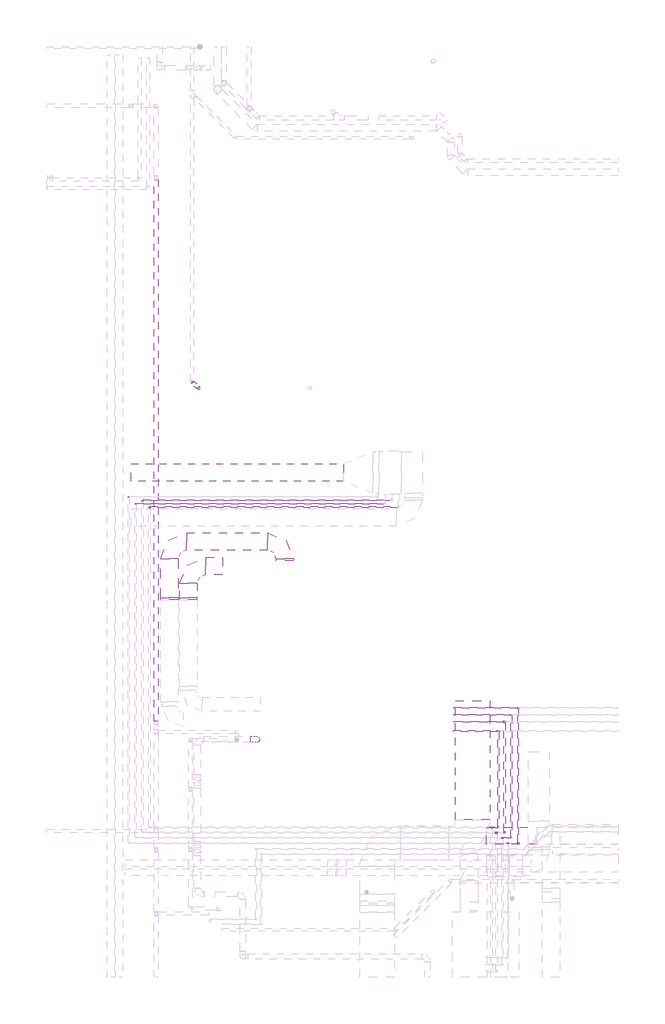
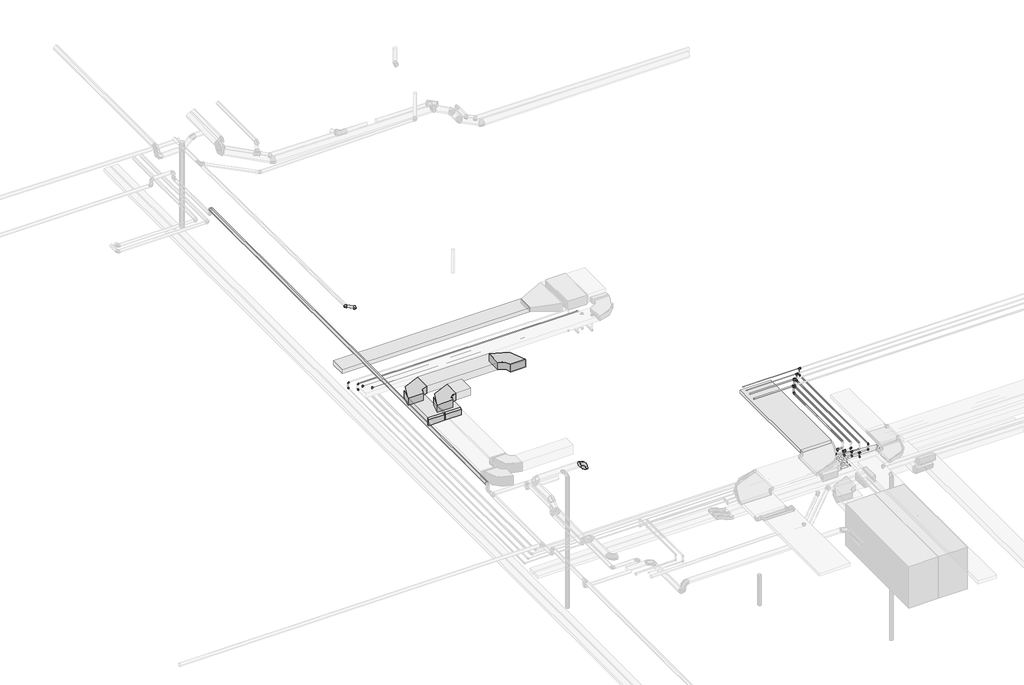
# One storey, part 5 of 10: 27 pipe fittings, 26 pipe segments, 7 duct segments, 6 duct fittings, 1 cable carrier segment.
"""IFC4 building model written with IfcOpenShell, lengths in millimetres."""

from ifc_helpers import new_model, si_unit, point, frame, frame_2d, origin, place, context, project, spatial, polyline, circle_curve, trimmed, segment, composite_curve, outline, extrude, transform, mapped, element, save
from components import duct_fitting_a79acc03, m_codo_rectangular_radio_apt_1_w_255882bf, m_codo_redondo_ext_1_d_74319309, pipe_fitting_f5d6ed74, pipe_fitting_371413ad, pipe_fitting_ce635796, pipe_fitting_12bd319b, pipe_fitting_0c9cd777, pipe_fitting_c06ac706, t_soldadura_a_enchufe_3838ae01, t_soldadura_a_enchufe_a08a0222

model = new_model("IFC4")

# Units and contexts
model_context = context("Model", 3, world=origin())
ifc_project = project(units=[si_unit("LENGTHUNIT", "METRE", prefix="MILLI")], contexts=[model_context])

# Site, building, storey
site = spatial("IfcSite", under=ifc_project)
building = spatial("IfcBuilding", under=site)
storey = spatial("IfcBuildingStorey", under=building, Name="Nivell 00 P00_PB", Elevation=6330.0)

# Cable carrier segment
placement = place(None, origin())
element("IfcCableCarrierSegment", 1, ObjectType="Gasos", at=placement, inside=storey, context=model_context, shape_type="SweptSolid", body=[
    extrude(outline(polyline([(15069.6653746, -14295.900755), (14069.6653746, -14295.900755), (14069.6653746, -10870.900755), (15069.6653746, -10870.900755), (15069.6653746, -14295.900755)])), frame((0.0, 0.0, 10460.0), z_axis=(0.0, 0.0, 1.0), x_axis=(1.0, 0.0, 0.0)), (0.0, 0.0, 1.0), 100.0),
])

# Duct fittings
duct_fitting_shape = duct_fitting_a79acc03(model_context)
element("IfcDuctFitting", 2, ObjectType="M_Transición rectangular - Ángulo : APT_45 graus", at=placement, inside=storey, context=model_context, shape_type="MappedRepresentation", body=[
    mapped(duct_fitting_shape, transform((6365.1053025, -7901.7218808, 10660.0), x_axis=(-6.310718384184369e-07, -0.9999999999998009, 0.0), y_axis=(0.9999999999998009, -6.310718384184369e-07, 0.0), z_axis=(0.0, 0.0, 1.0))),
])
element("IfcDuctFitting", 3, ObjectType="M_Transición rectangular - Ángulo : EXT_45 graus", at=placement, inside=storey, context=model_context, shape_type="MappedRepresentation", body=[
    mapped(duct_fitting_shape, transform((5815.0962014, -7901.719359, 10660.0), x_axis=(-6.310718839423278e-07, -0.9999999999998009, 0.0), y_axis=(0.9999999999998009, -6.310718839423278e-07, 0.0), z_axis=(0.0, 0.0, 1.0))),
])
m_codo_rectangular_radio_apt_1_w_shape = m_codo_rectangular_radio_apt_1_w_255882bf(model_context)
element("IfcDuctFitting", 4, ObjectType="M_Codo rectangular - Radio : APT_1 W", at=placement, inside=storey, context=model_context, shape_type="MappedRepresentation", body=[
    mapped(m_codo_rectangular_radio_apt_1_w_shape, transform((6365.1053025, -6984.7073302, 10660.0), x_axis=(-1.0, 0.0, 0.0), y_axis=(0.0, -1.0, 0.0), z_axis=(0.0, 0.0, 1.0))),
])
element("IfcDuctFitting", 5, ObjectType="M_Codo rectangular - Radio : EXT_1 W", at=placement, inside=storey, context=model_context, shape_type="MappedRepresentation", body=[
    mapped(m_codo_rectangular_radio_apt_1_w_shape, transform((5815.0962014, -6275.527985, 10660.0), x_axis=(-1.0, 0.0, 0.0), y_axis=(0.0, -1.0, 0.0), z_axis=(0.0, 0.0, 1.0))),
])
element("IfcDuctFitting", 6, ObjectType="M_Codo rectangular - Radio : EXT_1 W", at=placement, inside=storey, context=model_context, shape_type="MappedRepresentation", body=[
    mapped(m_codo_rectangular_radio_apt_1_w_shape, transform((9151.1206995, -6275.527985, 10660.0), x_axis=(0.0, 1.0, 0.0), y_axis=(-1.0, 0.0, 0.0), z_axis=(0.0, 0.0, 1.0))),
])
m_codo_redondo_ext_1_d_shape = m_codo_redondo_ext_1_d_74319309(model_context)
element("IfcDuctFitting", 7, ObjectType="M_Codo redondo : EXT_1 D", at=placement, inside=storey, context=model_context, shape_type="MappedRepresentation", body=[
    mapped(m_codo_redondo_ext_1_d_shape, transform((8341.1206995, -11984.7059364, 10742.5), x_axis=(1.0, 0.0, 0.0), y_axis=(0.0, 0.0, -1.0), z_axis=(0.0, 1.0, 0.0))),
])

# Duct segments
element("IfcDuctSegment", 8, ObjectType="APT_Fibra de vidre rígida", at=placement, inside=storey, context=model_context, shape_type="SweptSolid", body=[
    extrude(outline(polyline([(6615.1053025, -7901.7218808), (6115.1053025, -7901.7218808), (6115.1053025, -7484.7073302), (6615.1053025, -7484.7073302), (6615.1053025, -7901.7218808)])), frame((0.0, 0.0, 10535.0), z_axis=(0.0, 0.0, 1.0), x_axis=(1.0, 0.0, 0.0)), (0.0, 0.0, 1.0), 250.0),
])
element("IfcDuctSegment", 9, ObjectType="APT_Fibra de vidre rígida", at=placement, inside=storey, context=model_context, shape_type="SweptSolid", body=[
    extrude(outline(polyline([(6865.1053025, -7234.7073302), (6865.1053025, -6734.7073302), (7351.1206995, -6734.7073302), (7351.1206995, -7234.7073302), (6865.1053025, -7234.7073302)])), frame((0.0, 0.0, 10535.0), z_axis=(0.0, 0.0, 1.0), x_axis=(1.0, 0.0, 0.0)), (0.0, 0.0, 1.0), 250.0),
])
element("IfcDuctSegment", 10, ObjectType="EXT_Fibra de vidre rígida", at=placement, inside=storey, context=model_context, shape_type="SweptSolid", body=[
    extrude(outline(polyline([(6065.0962014, -7901.719359), (5565.0962014, -7901.719359), (5565.0962014, -6775.527985), (6065.0962014, -6775.527985), (6065.0962014, -7901.719359)])), frame((0.0, 0.0, 10535.0), z_axis=(0.0, 0.0, 1.0), x_axis=(1.0, 0.0, 0.0)), (0.0, 0.0, 1.0), 250.0),
])
element("IfcDuctSegment", 11, ObjectType="EXT_Fibra de vidre rígida", at=placement, inside=storey, context=model_context, shape_type="SweptSolid", body=[
    extrude(outline(polyline([(6315.0962014, -6525.527985), (6315.0962014, -6025.527985), (8651.1206995, -6025.527985), (8651.1206995, -6525.527985), (6315.0962014, -6525.527985)])), frame((0.0, 0.0, 10535.0), z_axis=(0.0, 0.0, 1.0), x_axis=(1.0, 0.0, 0.0)), (0.0, 0.0, 1.0), 250.0),
])
element("IfcDuctSegment", 12, ObjectType="EXT_Fibra de vidre rígida", at=placement, inside=storey, context=model_context, shape_type="SweptSolid", body=[
    extrude(outline(polyline([(8901.1206995, -6775.527985), (9401.1206995, -6775.527985), (9401.1206995, -6825.5281428), (8901.1206995, -6825.5281428), (8901.1206995, -6775.527985)])), frame((0.0, 0.0, 10535.0), z_axis=(0.0, 0.0, 1.0), x_axis=(1.0, 0.0, 0.0)), (0.0, 0.0, 1.0), 250.0),
])
element("IfcDuctSegment", 13, ObjectType="EXT_Planxa galvanitzada", at=placement, inside=storey, context=model_context, shape_type="SweptSolid", body=[
    extrude(outline(polyline([(10846.1600558, -4039.9878585), (10846.1635799, -4539.9878585), (4721.3382669, -4540.0310272), (4721.3347428, -4040.0310272), (10846.1600558, -4039.9878585)])), frame((0.0, 0.0, 10562.5), z_axis=(0.0, 0.0, 1.0), x_axis=(1.0, 0.0, 0.0)), (0.0, 0.0, 1.0), 150.0),
])
element("IfcDuctSegment", 14, ObjectType="IMP_Fibra de vidre rígida", at=placement, inside=storey, context=model_context, shape_type="SweptSolid", body=[
    extrude(outline(polyline([(0.0, -500.0), (0.0, 0.0), (1447.3858037, 0.0), (1447.3858037, -500.0), (0.0, -500.0)])), frame((14963.4911787, -14513.9966623, 10014.3331716), z_axis=(0.09592030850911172, 0.0, 0.9953890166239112), x_axis=(0.9953890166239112, 0.0, -0.09592030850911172)), (0.0, 0.0, 1.0), 200.0),
])

# Pipe fittings
pipe_fitting_shape = pipe_fitting_f5d6ed74(model_context)
element("IfcPipeFitting", 15, ObjectType="M_Codo - Genérico : Estándar", at=placement, inside=storey, context=model_context, shape_type="MappedRepresentation", body=[
    mapped(pipe_fitting_shape, transform((6663.412881, -1851.7161728, 10549.2196436), x_axis=(0.707071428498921, -0.7070714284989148, 0.00999950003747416), y_axis=(0.7070714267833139, 0.7071300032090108, 0.004141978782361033), z_axis=(-0.009999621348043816, 0.004141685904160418, 0.9999414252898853))),
])
pipe_fitting_2_shape = pipe_fitting_371413ad(model_context)
element("IfcPipeFitting", 16, ObjectType="M_Codo - Genérico : Estándar", at=placement, inside=storey, context=model_context, shape_type="MappedRepresentation", body=[
    mapped(pipe_fitting_2_shape, transform((15317.1341617, -11743.2163747, 10560.0), x_axis=(4.213611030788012e-05, 0.9999999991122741, 0.0), y_axis=(0.0, 0.0, 1.0), z_axis=(0.9999999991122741, -4.213611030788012e-05, 0.0))),
])
element("IfcPipeFitting", 17, ObjectType="M_Codo - Genérico : Estándar", at=placement, inside=storey, context=model_context, shape_type="MappedRepresentation", body=[
    mapped(pipe_fitting_2_shape, transform((15497.1441442, -11473.2240514, 10560.0), x_axis=(4.1754585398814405e-05, 0.9999999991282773, 0.0), y_axis=(0.0, 0.0, 1.0), z_axis=(0.9999999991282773, -4.1754585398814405e-05, 0.0))),
])
element("IfcPipeFitting", 18, ObjectType="M_Codo - Genérico : Estándar", at=placement, inside=storey, context=model_context, shape_type="MappedRepresentation", body=[
    mapped(pipe_fitting_2_shape, transform((15497.0138298, -14674.6121068, 10360.0), x_axis=(0.0, 0.0, -1.0), y_axis=(-0.9999999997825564, 2.085395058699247e-05, 0.0), z_axis=(2.085395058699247e-05, 0.9999999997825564, 0.0))),
])
element("IfcPipeFitting", 19, ObjectType="M_Codo - Genérico : Estándar", at=placement, inside=storey, context=model_context, shape_type="MappedRepresentation", body=[
    mapped(pipe_fitting_2_shape, transform((15116.8432323, -14524.1350471, 10210.0), x_axis=(0.0, 0.0, -1.0), y_axis=(0.0, -1.0, 0.0), z_axis=(-1.0, 0.0, 0.0))),
])
element("IfcPipeFitting", 20, ObjectType="M_Codo - Genérico : Estándar", at=placement, inside=storey, context=model_context, shape_type="MappedRepresentation", body=[
    mapped(pipe_fitting_2_shape, transform((15266.8516957, -14674.6079326, 10210.0), x_axis=(0.0, 0.0, -1.0), y_axis=(0.0, -1.0, 0.0), z_axis=(-1.0, 0.0, 0.0))),
])
pipe_fitting_3_shape = pipe_fitting_ce635796(model_context)
element("IfcPipeFitting", 21, ObjectType="M_Codo - Genérico : Estándar", at=placement, inside=storey, context=model_context, shape_type="MappedRepresentation", body=[
    mapped(pipe_fitting_3_shape, transform((5045.700343, -5085.0420593, 10360.0), x_axis=(-0.9999999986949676, 5.1088793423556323e-05, 0.0), y_axis=(-5.1088793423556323e-05, -0.9999999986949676, 0.0), z_axis=(0.0, 0.0, 1.0))),
])
pipe_fitting_4_shape = pipe_fitting_12bd319b(model_context)
element("IfcPipeFitting", 22, ObjectType="M_Codo - Genérico : Estándar", at=placement, inside=storey, context=model_context, shape_type="MappedRepresentation", body=[
    mapped(pipe_fitting_4_shape, transform((5245.6933062, -5285.0442731, 10360.0), x_axis=(-0.999999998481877, 5.5102140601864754e-05, 0.0), y_axis=(-5.5102140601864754e-05, -0.999999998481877, 0.0), z_axis=(0.0, 0.0, 1.0))),
])
pipe_fitting_5_shape = pipe_fitting_0c9cd777(model_context)
element("IfcPipeFitting", 23, ObjectType="M_Codo - Genérico : Estándar", at=placement, inside=storey, context=model_context, shape_type="MappedRepresentation", body=[
    mapped(pipe_fitting_5_shape, transform((6478.5367331, -1666.8400249, 10546.6051), x_axis=(0.00012595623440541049, -0.9999499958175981, 0.009999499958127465), y_axis=(0.9999914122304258, 0.0001673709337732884, 0.004140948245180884), z_axis=(-0.004142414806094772, 0.009998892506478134, 0.9999414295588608))),
])
pipe_fitting_6_shape = pipe_fitting_c06ac706(model_context)
element("IfcPipeFitting", 24, ObjectType="M_Codo - Genérico : Estándar", at=placement, inside=storey, context=model_context, shape_type="MappedRepresentation", body=[
    mapped(pipe_fitting_6_shape, transform((15687.1511901, -11273.3482932, 10567.5), x_axis=(4.144554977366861e-05, 0.9999999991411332, 0.0), y_axis=(0.0, 0.0, 1.0), z_axis=(0.9999999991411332, -4.144554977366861e-05, 0.0))),
])
element("IfcPipeFitting", 25, ObjectType="M_Codo - Genérico : Estándar", at=placement, inside=storey, context=model_context, shape_type="MappedRepresentation", body=[
    mapped(pipe_fitting_6_shape, transform((15887.1599477, -11073.3334965, 10567.5), x_axis=(4.155888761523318e-05, 0.9999999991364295, 0.0), y_axis=(0.0, 0.0, 1.0), z_axis=(0.9999999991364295, -4.155888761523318e-05, 0.0))),
])
element("IfcPipeFitting", 26, ObjectType="M_Codo - Genérico : Estándar", at=placement, inside=storey, context=model_context, shape_type="MappedRepresentation", body=[
    mapped(pipe_fitting_6_shape, transform((4845.6987786, -5185.0370644, 10567.5), x_axis=(0.0, 0.0, 1.0), y_axis=(0.9999999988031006, -4.892646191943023e-05, 0.0), z_axis=(4.892646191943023e-05, 0.9999999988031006, 0.0))),
])
element("IfcPipeFitting", 27, ObjectType="M_Codo - Genérico : Estándar", at=placement, inside=storey, context=model_context, shape_type="MappedRepresentation", body=[
    mapped(pipe_fitting_6_shape, transform((4645.7050352, -4985.0307779, 10367.5), x_axis=(4.2131587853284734e-05, 0.9999999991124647, 0.0), y_axis=(0.0, 0.0, 1.0000000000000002), z_axis=(0.9999999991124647, -4.2131587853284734e-05, 0.0))),
])
element("IfcPipeFitting", 28, ObjectType="M_Codo - Genérico : Estándar", at=placement, inside=storey, context=model_context, shape_type="MappedRepresentation", body=[
    mapped(pipe_fitting_6_shape, transform((4645.7050352, -4985.0307779, 10567.5), x_axis=(0.0, 0.0, 1.0), y_axis=(0.9999999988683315, -4.757454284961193e-05, 0.0), z_axis=(4.757454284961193e-05, 0.9999999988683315, 0.0))),
])
element("IfcPipeFitting", 29, ObjectType="M_Codo - Genérico : Estándar", at=placement, inside=storey, context=model_context, shape_type="MappedRepresentation", body=[
    mapped(pipe_fitting_6_shape, transform((15886.9978172, -14974.5565355, 10567.5), x_axis=(-4.1558887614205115e-05, -0.9999999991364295, 0.0), y_axis=(0.0, 0.0, -1.0), z_axis=(0.9999999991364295, -4.1558887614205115e-05, 0.0))),
])
element("IfcPipeFitting", 30, ObjectType="M_Codo - Genérico : Estándar", at=placement, inside=storey, context=model_context, shape_type="MappedRepresentation", body=[
    mapped(pipe_fitting_6_shape, transform((4845.6987786, -5185.0370644, 10367.5), x_axis=(0.0, 0.0, -1.0), y_axis=(-4.214686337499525e-05, -0.999999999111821, 0.0), z_axis=(-0.999999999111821, 4.214686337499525e-05, 0.0))),
])
element("IfcPipeFitting", 31, ObjectType="M_Codo - Genérico : Estándar", at=placement, inside=storey, context=model_context, shape_type="MappedRepresentation", body=[
    mapped(pipe_fitting_6_shape, transform((15886.9978172, -14974.5565355, 10367.5), x_axis=(0.0, 0.0, -1.0), y_axis=(-0.9999999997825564, 2.0853950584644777e-05, 0.0), z_axis=(2.0853950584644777e-05, 0.9999999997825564, 0.0))),
])
element("IfcPipeFitting", 32, ObjectType="M_Codo - Genérico : Estándar", at=placement, inside=storey, context=model_context, shape_type="MappedRepresentation", body=[
    mapped(pipe_fitting_6_shape, transform((15426.8566058, -14825.0087774, 10217.5), x_axis=(0.0, 0.0, -1.0), y_axis=(0.0, -1.0, 0.0), z_axis=(-1.0, 0.0, 0.0))),
])
element("IfcPipeFitting", 33, ObjectType="M_Codo - Genérico : Estándar", at=placement, inside=storey, context=model_context, shape_type="MappedRepresentation", body=[
    mapped(pipe_fitting_6_shape, transform((15596.8610691, -14974.5523619, 10217.4999994), x_axis=(0.0, 0.0, -1.0), y_axis=(0.0, -1.0, 0.0), z_axis=(-1.0, 0.0, 0.0))),
])
t_soldadura_a_enchufe_shape = t_soldadura_a_enchufe_3838ae01(model_context)
element("IfcPipeFitting", 34, ObjectType="T-Soldadura a enchufe : Estándar", at=placement, inside=storey, context=model_context, shape_type="MappedRepresentation", body=[
    mapped(t_soldadura_a_enchufe_shape, transform((15497.1441442, -11473.2240514, 10810.0), x_axis=(0.9999999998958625, -1.4431733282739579e-05, 0.0), y_axis=(0.0, 0.0, 1.0), z_axis=(-1.4431733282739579e-05, -0.9999999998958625, 0.0))),
])
element("IfcPipeFitting", 35, ObjectType="T-Soldadura a enchufe : Estándar", at=placement, inside=storey, context=model_context, shape_type="MappedRepresentation", body=[
    mapped(t_soldadura_a_enchufe_shape, transform((15317.1341617, -11743.2163747, 10810.0), x_axis=(0.9999999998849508, -1.516899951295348e-05, 0.0), y_axis=(0.0, 0.0, 1.0000000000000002), z_axis=(-1.516899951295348e-05, -0.9999999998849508, 0.0))),
])
element("IfcPipeFitting", 36, ObjectType="T-Soldadura a enchufe : Estándar", at=placement, inside=storey, context=model_context, shape_type="MappedRepresentation", body=[
    mapped(t_soldadura_a_enchufe_shape, transform((15116.8432323, -14524.1350471, 10360.0), x_axis=(0.9999999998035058, -1.982393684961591e-05, 0.0), y_axis=(0.0, 0.0, 1.0000000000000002), z_axis=(-1.982393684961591e-05, -0.9999999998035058, 0.0))),
])
element("IfcPipeFitting", 37, ObjectType="T-Soldadura a enchufe : Estándar", at=placement, inside=storey, context=model_context, shape_type="MappedRepresentation", body=[
    mapped(t_soldadura_a_enchufe_shape, transform((15266.8516957, -14674.6079326, 10360.0), x_axis=(-0.9999999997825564, 2.085395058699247e-05, 0.0), y_axis=(0.0, 0.0, 1.0), z_axis=(2.085395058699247e-05, 0.9999999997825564, 0.0))),
])
t_soldadura_a_enchufe_2_shape = t_soldadura_a_enchufe_a08a0222(model_context)
element("IfcPipeFitting", 38, ObjectType="T-Soldadura a enchufe : Estándar", at=placement, inside=storey, context=model_context, shape_type="MappedRepresentation", body=[
    mapped(t_soldadura_a_enchufe_2_shape, transform((15887.1599477, -11073.3334965, 10810.0), x_axis=(0.9999999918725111, -0.00012749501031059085, 0.0), y_axis=(0.0, 0.0, 1.0), z_axis=(-0.00012749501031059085, -0.9999999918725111, 0.0))),
])
element("IfcPipeFitting", 39, ObjectType="T-Soldadura a enchufe : Estándar", at=placement, inside=storey, context=model_context, shape_type="MappedRepresentation", body=[
    mapped(t_soldadura_a_enchufe_2_shape, transform((15687.1511901, -11273.3482932, 10810.0), x_axis=(0.9999999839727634, -0.00017903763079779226, 0.0), y_axis=(0.0, 0.0, 1.0000000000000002), z_axis=(-0.00017903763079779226, -0.9999999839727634, 0.0))),
])
element("IfcPipeFitting", 40, ObjectType="T-Soldadura a enchufe : Estándar", at=placement, inside=storey, context=model_context, shape_type="MappedRepresentation", body=[
    mapped(t_soldadura_a_enchufe_2_shape, transform((15426.8566058, -14825.0087774, 10367.5), x_axis=(0.9999999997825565, -2.0853950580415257e-05, 0.0), y_axis=(0.0, 0.0, 1.0000000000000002), z_axis=(-2.0853950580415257e-05, -0.9999999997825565, 0.0))),
])
element("IfcPipeFitting", 41, ObjectType="T-Soldadura a enchufe : Estándar", at=placement, inside=storey, context=model_context, shape_type="MappedRepresentation", body=[
    mapped(t_soldadura_a_enchufe_2_shape, transform((15596.8610691, -14974.5523619, 10367.5), x_axis=(-0.9999999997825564, 2.0853950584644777e-05, 0.0), y_axis=(0.0, 0.0, 1.0), z_axis=(2.0853950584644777e-05, 0.9999999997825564, 0.0))),
])

# Pipe segments
element("IfcPipeSegment", 42, ObjectType="PPR_CLI_Aquatherm Blue Pipe", at=placement, inside=storey, context=model_context, shape_type="SweptSolid", body=[
    extrude(outline(composite_curve([segment(trimmed(circle_curve(frame_2d((0.0, -20.0)), 20.0), [point((0.0, 0.0))], [point((20.0, -20.0))], False, "CARTESIAN"), True, "CONTINUOUS"), segment(trimmed(circle_curve(frame_2d((0.0, -20.0)), 20.0), [point((20.0, -20.0))], [point((0.0, -40.0))], False, "CARTESIAN"), True, "CONTINUOUS"), segment(trimmed(circle_curve(frame_2d((0.0, -20.0)), 20.0), [point((0.0, -40.0))], [point((-20.0, -20.0))], False, "CARTESIAN"), True, "CONTINUOUS"), segment(trimmed(circle_curve(frame_2d((0.0, -20.0)), 20.0), [point((-20.0, -20.0))], [point((0.0, 0.0))], False, "CARTESIAN"), True, "CONTINUOUS")], self_intersect=False)), frame((15297.0215406, -14497.1506977, 10560.0), z_axis=(4.088234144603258e-05, 0.9999999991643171, 0.0), x_axis=(0.0, 0.0, -1.0)), (0.0, 0.0, 1.0), 2726.947643),
])
element("IfcPipeSegment", 43, ObjectType="PPR_CLI_Aquatherm Blue Pipe", at=placement, inside=storey, context=model_context, shape_type="SweptSolid", body=[
    extrude(outline(composite_curve([segment(trimmed(circle_curve(frame_2d((0.0, 20.0)), 20.0), [point((-20.0, 20.0))], [point((0.0, 40.0))], False, "CARTESIAN"), True, "CONTINUOUS"), segment(trimmed(circle_curve(frame_2d((0.0, 20.0)), 20.0), [point((0.0, 40.0))], [point((20.0, 20.0))], False, "CARTESIAN"), True, "CONTINUOUS"), segment(trimmed(circle_curve(frame_2d((0.0, 20.0)), 20.0), [point((20.0, 20.0))], [point((0.0, 0.0))], False, "CARTESIAN"), True, "CONTINUOUS"), segment(trimmed(circle_curve(frame_2d((0.0, 20.0)), 20.0), [point((0.0, 0.0))], [point((-20.0, 20.0))], False, "CARTESIAN"), True, "CONTINUOUS")], self_intersect=False)), frame((15477.1441442, -11473.2237627, 10790.0), z_axis=(-0.9999999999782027, 6.602628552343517e-06, 0.0), x_axis=(-6.602628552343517e-06, -0.9999999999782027, 0.0)), (0.0, 0.0, 1.0), 1440.0000038),
])
element("IfcPipeSegment", 44, ObjectType="PPR_CLI_Aquatherm Blue Pipe", at=placement, inside=storey, context=model_context, shape_type="SweptSolid", body=[
    extrude(outline(composite_curve([segment(trimmed(circle_curve(frame_2d((0.0, -20.0)), 20.0), [point((0.0, 0.0))], [point((20.0, -20.0))], False, "CARTESIAN"), True, "CONTINUOUS"), segment(trimmed(circle_curve(frame_2d((0.0, -20.0)), 20.0), [point((20.0, -20.0))], [point((0.0, -40.0))], False, "CARTESIAN"), True, "CONTINUOUS"), segment(trimmed(circle_curve(frame_2d((0.0, -20.0)), 20.0), [point((0.0, -40.0))], [point((-20.0, -20.0))], False, "CARTESIAN"), True, "CONTINUOUS"), segment(trimmed(circle_curve(frame_2d((0.0, -20.0)), 20.0), [point((-20.0, -20.0))], [point((0.0, 0.0))], False, "CARTESIAN"), True, "CONTINUOUS")], self_intersect=False)), frame((15477.0149282, -14647.6239148, 10559.9857807), z_axis=(4.069666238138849e-05, 0.9999999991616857, 4.5177770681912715e-06), x_axis=(1.838600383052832e-10, 4.517777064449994e-06, -0.9999999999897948)), (0.0, 0.0, 1.0), 3147.41318),
])
element("IfcPipeSegment", 45, ObjectType="PPR_CLI_Aquatherm Blue Pipe", at=placement, inside=storey, context=model_context, shape_type="SweptSolid", body=[
    extrude(outline(composite_curve([segment(trimmed(circle_curve(frame_2d((0.0, 12.5)), 12.5), [point((-12.5, 12.5))], [point((0.0, 25.0))], False, "CARTESIAN"), True, "CONTINUOUS"), segment(trimmed(circle_curve(frame_2d((0.0, 12.5)), 12.5), [point((0.0, 25.0))], [point((12.5, 12.5))], False, "CARTESIAN"), True, "CONTINUOUS"), segment(trimmed(circle_curve(frame_2d((0.0, 12.5)), 12.5), [point((12.5, 12.5))], [point((0.0, 0.0))], False, "CARTESIAN"), True, "CONTINUOUS"), segment(trimmed(circle_curve(frame_2d((0.0, 12.5)), 12.5), [point((0.0, 0.0))], [point((-12.5, 12.5))], False, "CARTESIAN"), True, "CONTINUOUS")], self_intersect=False)), frame((15672.1511903, -11273.3456076, 10797.5), z_axis=(-0.9999999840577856, 0.0001785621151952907, 0.0), x_axis=(-0.0001785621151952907, -0.9999999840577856, 0.0)), (0.0, 0.0, 1.0), 1634.9999798),
])
element("IfcPipeSegment", 46, ObjectType="PPR_CLI_Aquatherm Blue Pipe", at=placement, inside=storey, context=model_context, shape_type="SweptSolid", body=[
    extrude(outline(composite_curve([segment(trimmed(circle_curve(frame_2d((0.0, -12.5)), 12.5), [point((0.0, 0.0))], [point((12.5, -12.5))], False, "CARTESIAN"), True, "CONTINUOUS"), segment(trimmed(circle_curve(frame_2d((0.0, -12.5)), 12.5), [point((12.5, -12.5))], [point((0.0, -25.0))], False, "CARTESIAN"), True, "CONTINUOUS"), segment(trimmed(circle_curve(frame_2d((0.0, -12.5)), 12.5), [point((0.0, -25.0))], [point((-12.5, -12.5))], False, "CARTESIAN"), True, "CONTINUOUS"), segment(trimmed(circle_curve(frame_2d((0.0, -12.5)), 12.5), [point((-12.5, -12.5))], [point((0.0, 0.0))], False, "CARTESIAN"), True, "CONTINUOUS")], self_intersect=False)), frame((15674.5065458, -14804.3749393, 10567.5), z_axis=(4.0960967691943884e-05, 0.9999999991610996, 0.0), x_axis=(0.0, 0.0, -1.0)), (0.0, 0.0, 1.0), 3510.389661),
])
element("IfcPipeSegment", 47, ObjectType="PPR_CLI_Aquatherm Blue Pipe", at=placement, inside=storey, context=model_context, shape_type="SweptSolid", body=[
    extrude(outline(composite_curve([segment(trimmed(circle_curve(frame_2d((0.0, 12.5)), 12.5), [point((-12.5, 12.5))], [point((0.0, 25.0))], False, "CARTESIAN"), True, "CONTINUOUS"), segment(trimmed(circle_curve(frame_2d((0.0, 12.5)), 12.5), [point((0.0, 25.0))], [point((12.5, 12.5))], False, "CARTESIAN"), True, "CONTINUOUS"), segment(trimmed(circle_curve(frame_2d((0.0, 12.5)), 12.5), [point((12.5, 12.5))], [point((0.0, 0.0))], False, "CARTESIAN"), True, "CONTINUOUS"), segment(trimmed(circle_curve(frame_2d((0.0, 12.5)), 12.5), [point((0.0, 0.0))], [point((-12.5, 12.5))], False, "CARTESIAN"), True, "CONTINUOUS")], self_intersect=False)), frame((15872.1599479, -11073.3315841, 10797.5), z_axis=(-0.999999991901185, 0.0001272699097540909, 0.0), x_axis=(-0.0001272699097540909, -0.999999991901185, 0.0)), (0.0, 0.0, 1.0), 1834.999986),
])
element("IfcPipeSegment", 48, ObjectType="PPR_CLI_Aquatherm Blue Pipe", at=placement, inside=storey, context=model_context, shape_type="SweptSolid", body=[
    extrude(outline(composite_curve([segment(trimmed(circle_curve(frame_2d((0.0, -12.5)), 12.5), [point((0.0, 0.0))], [point((12.5, -12.5))], False, "CARTESIAN"), True, "CONTINUOUS"), segment(trimmed(circle_curve(frame_2d((0.0, -12.5)), 12.5), [point((12.5, -12.5))], [point((0.0, -25.0))], False, "CARTESIAN"), True, "CONTINUOUS"), segment(trimmed(circle_curve(frame_2d((0.0, -12.5)), 12.5), [point((0.0, -25.0))], [point((-12.5, -12.5))], False, "CARTESIAN"), True, "CONTINUOUS"), segment(trimmed(circle_curve(frame_2d((0.0, -12.5)), 12.5), [point((-12.5, -12.5))], [point((0.0, 0.0))], False, "CARTESIAN"), True, "CONTINUOUS")], self_intersect=False)), frame((15874.4986749, -14953.9185161, 10567.5), z_axis=(4.155888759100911e-05, 0.9999999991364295, 0.0), x_axis=(0.0, 0.0, -1.0)), (0.0, 0.0, 1.0), 3859.9480424),
])
element("IfcPipeSegment", 49, ObjectType="PPR_CLI_Aquatherm Blue Pipe", at=placement, inside=storey, context=model_context, shape_type="SweptSolid", body=[
    extrude(outline(composite_curve([segment(trimmed(circle_curve(frame_2d((0.0, 20.0)), 20.0), [point((-19.9999999, 20.0))], [point((0.0, 40.0))], False, "CARTESIAN"), True, "CONTINUOUS"), segment(trimmed(circle_curve(frame_2d((0.0, 20.0)), 20.0), [point((0.0, 40.0))], [point((20.0, 20.0))], False, "CARTESIAN"), True, "CONTINUOUS"), segment(trimmed(circle_curve(frame_2d((0.0, 20.0)), 20.0), [point((20.0, 20.0))], [point((0.0, 0.0))], False, "CARTESIAN"), True, "CONTINUOUS"), segment(trimmed(circle_curve(frame_2d((0.0, 20.0)), 20.0), [point((0.0, 0.0))], [point((-19.9999999, 20.0))], False, "CARTESIAN"), True, "CONTINUOUS")], self_intersect=False)), frame((12418.0094738, -5285.439483, 10340.0), z_axis=(-0.999999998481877, 5.5102140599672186e-05, 0.0), x_axis=(-5.5102140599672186e-05, -0.999999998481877, 0.0)), (0.0, 0.0, 1.0), 7145.3283172),
])
element("IfcPipeSegment", 50, ObjectType="PPR_CLI_Aquatherm Blue Pipe", at=placement, inside=storey, context=model_context, shape_type="SweptSolid", body=[
    extrude(outline(composite_curve([segment(trimmed(circle_curve(frame_2d((0.0, 20.0)), 20.0), [point((-20.0, 20.0))], [point((0.0, 40.0))], False, "CARTESIAN"), True, "CONTINUOUS"), segment(trimmed(circle_curve(frame_2d((0.0, 20.0)), 20.0), [point((0.0, 40.0))], [point((19.9999999, 20.0))], False, "CARTESIAN"), True, "CONTINUOUS"), segment(trimmed(circle_curve(frame_2d((0.0, 20.0)), 20.0), [point((19.9999999, 20.0))], [point((0.0, 0.0))], False, "CARTESIAN"), True, "CONTINUOUS"), segment(trimmed(circle_curve(frame_2d((0.0, 20.0)), 20.0), [point((0.0, 0.0))], [point((-20.0, 20.0))], False, "CARTESIAN"), True, "CONTINUOUS")], self_intersect=False)), frame((12217.9987258, -5085.4084834, 10340.0), z_axis=(-0.9999999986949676, 5.108879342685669e-05, 0.0), x_axis=(-5.108879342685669e-05, -0.9999999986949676, 0.0)), (0.0, 0.0, 1.0), 7145.3106391),
])
element("IfcPipeSegment", 51, ObjectType="PPR_CLI_Aquatherm Blue Pipe", at=placement, inside=storey, context=model_context, shape_type="SweptSolid", body=[
    extrude(outline(composite_curve([segment(trimmed(circle_curve(frame_2d((0.0, -12.5)), 12.5), [point((-12.5, -12.5))], [point((0.0, 0.0))], False, "CARTESIAN"), True, "CONTINUOUS"), segment(trimmed(circle_curve(frame_2d((0.0, -12.5)), 12.5), [point((0.0, 0.0))], [point((12.4999999, -12.5))], False, "CARTESIAN"), True, "CONTINUOUS"), segment(trimmed(circle_curve(frame_2d((0.0, -12.5)), 12.5), [point((12.4999999, -12.5))], [point((0.0, -25.0))], False, "CARTESIAN"), True, "CONTINUOUS"), segment(trimmed(circle_curve(frame_2d((0.0, -12.5)), 12.5), [point((0.0, -25.0))], [point((-12.5, -12.5))], False, "CARTESIAN"), True, "CONTINUOUS")], self_intersect=False)), frame((12024.3384984, -5185.3882898, 10555.0), z_axis=(-0.9999999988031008, 4.892646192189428e-05, 0.0), x_axis=(4.892646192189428e-05, 0.9999999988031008, 0.0)), (0.0, 0.0, 1.0), 7158.0022284),
])
element("IfcPipeSegment", 52, ObjectType="PPR_CLI_Aquatherm Blue Pipe", at=placement, inside=storey, context=model_context, shape_type="SweptSolid", body=[
    extrude(outline(composite_curve([segment(trimmed(circle_curve(frame_2d((0.0, 20.0)), 20.0), [point((-20.0, 20.0))], [point((0.0, 40.0))], False, "CARTESIAN"), True, "CONTINUOUS"), segment(trimmed(circle_curve(frame_2d((0.0, 20.0)), 20.0), [point((0.0, 40.0))], [point((20.0, 20.0))], False, "CARTESIAN"), True, "CONTINUOUS"), segment(trimmed(circle_curve(frame_2d((0.0, 20.0)), 20.0), [point((20.0, 20.0))], [point((0.0, 0.0))], False, "CARTESIAN"), True, "CONTINUOUS"), segment(trimmed(circle_curve(frame_2d((0.0, 20.0)), 20.0), [point((0.0, 0.0))], [point((-20.0, 20.0))], False, "CARTESIAN"), True, "CONTINUOUS")], self_intersect=False)), frame((15297.1341617, -11743.2160713, 10790.0), z_axis=(-0.9999999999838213, 5.688375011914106e-06, 0.0), x_axis=(-5.688375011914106e-06, -0.9999999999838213, 0.0)), (0.0, 0.0, 1.0), 1280.0000268),
])
element("IfcPipeSegment", 53, ObjectType="PPR_CLI_Aquatherm Blue Pipe", at=placement, inside=storey, context=model_context, shape_type="SweptSolid", body=[
    extrude(outline(composite_curve([segment(trimmed(circle_curve(frame_2d((15887.1599477, -11073.3334965)), 12.5), [point((15874.6599477, -11073.3334965))], [point((15887.1599477, -11060.8334965))], False, "CARTESIAN"), True, "CONTINUOUS"), segment(trimmed(circle_curve(frame_2d((15887.1599477, -11073.3334965)), 12.5), [point((15887.1599477, -11060.8334965))], [point((15899.6599477, -11073.3334965))], False, "CARTESIAN"), True, "CONTINUOUS"), segment(trimmed(circle_curve(frame_2d((15887.1599477, -11073.3334965)), 12.5), [point((15899.6599477, -11073.3334965))], [point((15887.1599477, -11085.8334965))], False, "CARTESIAN"), True, "CONTINUOUS"), segment(trimmed(circle_curve(frame_2d((15887.1599477, -11073.3334965)), 12.5), [point((15887.1599477, -11085.8334965))], [point((15874.6599477, -11073.3334965))], False, "CARTESIAN"), True, "CONTINUOUS")], self_intersect=False)), frame((0.0, 0.0, 10588.1375), z_axis=(0.0, 0.0, 1.0), x_axis=(1.0, 0.0, 0.0)), (0.0, 0.0, 1.0), 206.8625),
])
element("IfcPipeSegment", 54, ObjectType="PPR_CLI_Aquatherm Blue Pipe", at=placement, inside=storey, context=model_context, shape_type="SweptSolid", body=[
    extrude(outline(composite_curve([segment(trimmed(circle_curve(frame_2d((15687.1511901, -11273.3482932)), 12.5), [point((15674.6511901, -11273.3482932))], [point((15687.1511901, -11260.8482932))], False, "CARTESIAN"), True, "CONTINUOUS"), segment(trimmed(circle_curve(frame_2d((15687.1511901, -11273.3482932)), 12.5), [point((15687.1511901, -11260.8482932))], [point((15699.6511901, -11273.3482932))], False, "CARTESIAN"), True, "CONTINUOUS"), segment(trimmed(circle_curve(frame_2d((15687.1511901, -11273.3482932)), 12.5), [point((15699.6511901, -11273.3482932))], [point((15687.1511901, -11285.8482932))], False, "CARTESIAN"), True, "CONTINUOUS"), segment(trimmed(circle_curve(frame_2d((15687.1511901, -11273.3482932)), 12.5), [point((15687.1511901, -11285.8482932))], [point((15674.6511901, -11273.3482932))], False, "CARTESIAN"), True, "CONTINUOUS")], self_intersect=False)), frame((0.0, 0.0, 10588.1375), z_axis=(0.0, 0.0, 1.0), x_axis=(1.0, 0.0, 0.0)), (0.0, 0.0, 1.0), 206.8625),
])
element("IfcPipeSegment", 55, ObjectType="PPR_CLI_Aquatherm Blue Pipe", at=placement, inside=storey, context=model_context, shape_type="SweptSolid", body=[
    extrude(outline(composite_curve([segment(trimmed(circle_curve(frame_2d((15497.1441442, -11473.2240514)), 20.0), [point((15477.1441442, -11473.2240514))], [point((15497.1441442, -11453.2240514))], False, "CARTESIAN"), True, "CONTINUOUS"), segment(trimmed(circle_curve(frame_2d((15497.1441442, -11473.2240514)), 20.0), [point((15497.1441442, -11453.2240514))], [point((15517.1441442, -11473.2240514))], False, "CARTESIAN"), True, "CONTINUOUS"), segment(trimmed(circle_curve(frame_2d((15497.1441442, -11473.2240514)), 20.0), [point((15517.1441442, -11473.2240514))], [point((15497.1441442, -11493.2240514))], False, "CARTESIAN"), True, "CONTINUOUS"), segment(trimmed(circle_curve(frame_2d((15497.1441442, -11473.2240514)), 20.0), [point((15497.1441442, -11493.2240514))], [point((15477.1441442, -11473.2240514))], False, "CARTESIAN"), True, "CONTINUOUS")], self_intersect=False)), frame((0.0, 0.0, 10586.9875), z_axis=(0.0, 0.0, 1.0), x_axis=(1.0, 0.0, 0.0)), (0.0, 0.0, 1.0), 203.0125),
])
element("IfcPipeSegment", 56, ObjectType="PPR_CLI_Aquatherm Blue Pipe", at=placement, inside=storey, context=model_context, shape_type="SweptSolid", body=[
    extrude(outline(composite_curve([segment(trimmed(circle_curve(frame_2d((15317.1341617, -11743.2163747)), 20.0), [point((15297.1341617, -11743.2163747))], [point((15317.1341617, -11723.2163747))], False, "CARTESIAN"), True, "CONTINUOUS"), segment(trimmed(circle_curve(frame_2d((15317.1341617, -11743.2163747)), 20.0), [point((15317.1341617, -11723.2163747))], [point((15337.1341617, -11743.2163747))], False, "CARTESIAN"), True, "CONTINUOUS"), segment(trimmed(circle_curve(frame_2d((15317.1341617, -11743.2163747)), 20.0), [point((15337.1341617, -11743.2163747))], [point((15317.1341617, -11763.2163747))], False, "CARTESIAN"), True, "CONTINUOUS"), segment(trimmed(circle_curve(frame_2d((15317.1341617, -11743.2163747)), 20.0), [point((15317.1341617, -11763.2163747))], [point((15297.1341617, -11743.2163747))], False, "CARTESIAN"), True, "CONTINUOUS")], self_intersect=False)), frame((0.0, 0.0, 10586.9875), z_axis=(0.0, 0.0, 1.0), x_axis=(1.0, 0.0, 0.0)), (0.0, 0.0, 1.0), 203.0125),
])
element("IfcPipeSegment", 57, ObjectType="AN_CI", at=placement, inside=storey, context=model_context, shape_type="SweptSolid", body=[
    extrude(outline(composite_curve([segment(trimmed(circle_curve(frame_2d((10729.2, 5436.8741871)), 50.8), [point((10729.2, 5386.0741871))], [point((10678.4, 5436.8741871))], False, "CARTESIAN"), True, "CONTINUOUS"), segment(trimmed(circle_curve(frame_2d((10729.2, 5436.8741871)), 50.8), [point((10678.4, 5436.8741871))], [point((10729.2, 5487.6741871))], False, "CARTESIAN"), True, "CONTINUOUS"), segment(trimmed(circle_curve(frame_2d((10729.2, 5436.8741871)), 50.8), [point((10729.2, 5487.6741871))], [point((10780.0, 5436.8741871))], False, "CARTESIAN"), True, "CONTINUOUS"), segment(trimmed(circle_curve(frame_2d((10729.2, 5436.8741871)), 50.8), [point((10780.0, 5436.8741871))], [point((10729.2, 5386.0741871))], False, "CARTESIAN"), True, "CONTINUOUS")], self_intersect=False)), frame((0.0, -11462.5499893, 0.0), z_axis=(0.0, 1.0, 0.0), x_axis=(0.0, 0.0, 1.0)), (0.0, 0.0, 1.0), 15626.7505266),
])
element("IfcPipeSegment", 58, ObjectType="PVC_Baixant", at=placement, inside=storey, context=model_context, shape_type="SweptSolid", body=[
    extrude(outline(composite_curve([segment(trimmed(circle_curve(frame_2d((0.0, -45.0)), 45.0), [point((44.9977504, -44.550045))], [point((0.4499551, -89.9977503))], False, "CARTESIAN"), True, "CONTINUOUS"), segment(trimmed(circle_curve(frame_2d((0.0, -45.0)), 45.0), [point((0.4499551, -89.9977503))], [point((-44.9977503, -45.449955))], False, "CARTESIAN"), True, "CONTINUOUS"), segment(trimmed(circle_curve(frame_2d((0.0, -45.0)), 45.0), [point((-44.9977503, -45.449955))], [point((-0.449955, -0.0022496))], False, "CARTESIAN"), True, "CONTINUOUS"), segment(trimmed(circle_curve(frame_2d((0.0, -45.0)), 45.0), [point((-0.449955, -0.0022496))], [point((44.9977504, -44.550045))], False, "CARTESIAN"), True, "CONTINUOUS")], self_intersect=False)), frame((6493.8762778, -1681.5432372, 10591.8175346), z_axis=(0.7070714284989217, -0.707071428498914, 0.009999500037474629), x_axis=(0.70714213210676, 0.7070007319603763, -0.009998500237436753)), (0.0, 0.0, 1.0), 218.073075),
])
element("IfcPipeSegment", 59, ObjectType="PPR_CLI_Aquatherm Blue Pipe", at=placement, inside=storey, context=model_context, shape_type="SweptSolid", body=[
    extrude(outline(composite_curve([segment(trimmed(circle_curve(frame_2d((4845.6987786, -5185.0370644)), 12.5), [point((4833.1987786, -5185.0370644))], [point((4845.6987786, -5172.5370644))], False, "CARTESIAN"), True, "CONTINUOUS"), segment(trimmed(circle_curve(frame_2d((4845.6987786, -5185.0370644)), 12.5), [point((4845.6987786, -5172.5370644))], [point((4858.1987786, -5185.0370644))], False, "CARTESIAN"), True, "CONTINUOUS"), segment(trimmed(circle_curve(frame_2d((4845.6987786, -5185.0370644)), 12.5), [point((4858.1987786, -5185.0370644))], [point((4845.6987786, -5197.5370644))], False, "CARTESIAN"), True, "CONTINUOUS"), segment(trimmed(circle_curve(frame_2d((4845.6987786, -5185.0370644)), 12.5), [point((4845.6987786, -5197.5370644))], [point((4833.1987786, -5185.0370644))], False, "CARTESIAN"), True, "CONTINUOUS")], self_intersect=False)), frame((0.0, 0.0, 10388.1375), z_axis=(0.0, 0.0, 1.0), x_axis=(1.0, 0.0, 0.0)), (0.0, 0.0, 1.0), 158.725),
])
element("IfcPipeSegment", 60, ObjectType="PPR_CLI_Aquatherm Blue Pipe", at=placement, inside=storey, context=model_context, shape_type="SweptSolid", body=[
    extrude(outline(composite_curve([segment(trimmed(circle_curve(frame_2d((4645.7050352, -4985.0307779)), 12.5), [point((4633.2050352, -4985.0307779))], [point((4645.7050352, -4972.5307779))], False, "CARTESIAN"), True, "CONTINUOUS"), segment(trimmed(circle_curve(frame_2d((4645.7050352, -4985.0307779)), 12.5), [point((4645.7050352, -4972.5307779))], [point((4658.2050352, -4985.0307779))], False, "CARTESIAN"), True, "CONTINUOUS"), segment(trimmed(circle_curve(frame_2d((4645.7050352, -4985.0307779)), 12.5), [point((4658.2050352, -4985.0307779))], [point((4645.7050352, -4997.5307779))], False, "CARTESIAN"), True, "CONTINUOUS"), segment(trimmed(circle_curve(frame_2d((4645.7050352, -4985.0307779)), 12.5), [point((4645.7050352, -4997.5307779))], [point((4633.2050352, -4985.0307779))], False, "CARTESIAN"), True, "CONTINUOUS")], self_intersect=False)), frame((0.0, 0.0, 10388.1375), z_axis=(0.0, 0.0, 1.0), x_axis=(1.0, 0.0, 0.0)), (0.0, 0.0, 1.0), 158.725),
])
element("IfcPipeSegment", 61, ObjectType="PPR_CLI_Aquatherm Blue Pipe", at=placement, inside=storey, context=model_context, shape_type="SweptSolid", body=[
    extrude(outline(composite_curve([segment(trimmed(circle_curve(frame_2d((15886.9978172, -14974.5565355)), 12.5), [point((15899.4978172, -14974.5565355))], [point((15886.9978172, -14987.0565355))], False, "CARTESIAN"), True, "CONTINUOUS"), segment(trimmed(circle_curve(frame_2d((15886.9978172, -14974.5565355)), 12.5), [point((15886.9978172, -14987.0565355))], [point((15874.4978172, -14974.5565355))], False, "CARTESIAN"), True, "CONTINUOUS"), segment(trimmed(circle_curve(frame_2d((15886.9978172, -14974.5565355)), 12.5), [point((15874.4978172, -14974.5565355))], [point((15886.9978172, -14962.0565355))], False, "CARTESIAN"), True, "CONTINUOUS"), segment(trimmed(circle_curve(frame_2d((15886.9978172, -14974.5565355)), 12.5), [point((15886.9978172, -14962.0565355))], [point((15899.4978172, -14974.5565355))], False, "CARTESIAN"), True, "CONTINUOUS")], self_intersect=False)), frame((0.0, 0.0, 10388.1375), z_axis=(0.0, 0.0, 1.0), x_axis=(1.0, 0.0, 0.0)), (0.0, 0.0, 1.0), 158.725),
])
element("IfcPipeSegment", 62, ObjectType="PPR_CLI_Aquatherm Blue Pipe", at=placement, inside=storey, context=model_context, shape_type="SweptSolid", body=[
    extrude(outline(composite_curve([segment(trimmed(circle_curve(frame_2d((15116.8432323, -14524.1350471)), 20.0), [point((15136.8432323, -14524.1350471))], [point((15116.8432323, -14544.1350471))], False, "CARTESIAN"), True, "CONTINUOUS"), segment(trimmed(circle_curve(frame_2d((15116.8432323, -14524.1350471)), 20.0), [point((15116.8432323, -14544.1350471))], [point((15096.8432323, -14524.1350471))], False, "CARTESIAN"), True, "CONTINUOUS"), segment(trimmed(circle_curve(frame_2d((15116.8432323, -14524.1350471)), 20.0), [point((15096.8432323, -14524.1350471))], [point((15116.8432323, -14504.1350471))], False, "CARTESIAN"), True, "CONTINUOUS"), segment(trimmed(circle_curve(frame_2d((15116.8432323, -14524.1350471)), 20.0), [point((15116.8432323, -14504.1350471))], [point((15136.8432323, -14524.1350471))], False, "CARTESIAN"), True, "CONTINUOUS")], self_intersect=False)), frame((0.0, 0.0, 10236.9875), z_axis=(0.0, 0.0, 1.0), x_axis=(1.0, 0.0, 0.0)), (0.0, 0.0, 1.0), 103.0125),
])
element("IfcPipeSegment", 63, ObjectType="PPR_CLI_Aquatherm Blue Pipe", at=placement, inside=storey, context=model_context, shape_type="SweptSolid", body=[
    extrude(outline(composite_curve([segment(trimmed(circle_curve(frame_2d((0.0, 20.0)), 20.0), [point((-20.0, 20.0))], [point((0.0, 40.0))], False, "CARTESIAN"), True, "CONTINUOUS"), segment(trimmed(circle_curve(frame_2d((0.0, 20.0)), 20.0), [point((0.0, 40.0))], [point((20.0, 20.0))], False, "CARTESIAN"), True, "CONTINUOUS"), segment(trimmed(circle_curve(frame_2d((0.0, 20.0)), 20.0), [point((20.0, 20.0))], [point((0.0, 0.0))], False, "CARTESIAN"), True, "CONTINUOUS"), segment(trimmed(circle_curve(frame_2d((0.0, 20.0)), 20.0), [point((0.0, 0.0))], [point((-20.0, 20.0))], False, "CARTESIAN"), True, "CONTINUOUS")], self_intersect=False)), frame((15290.0329373, -14524.1384804, 10340.0), z_axis=(-0.9999999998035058, 1.9823936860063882e-05, 0.0), x_axis=(-1.9823936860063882e-05, -0.9999999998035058, 0.0)), (0.0, 0.0, 1.0), 153.189705),
])
element("IfcPipeSegment", 64, ObjectType="PPR_CLI_Aquatherm Blue Pipe", at=placement, inside=storey, context=model_context, shape_type="SweptSolid", body=[
    extrude(outline(composite_curve([segment(trimmed(circle_curve(frame_2d((15266.8516957, -14674.6079326)), 20.0), [point((15286.8516957, -14674.6079326))], [point((15266.8516957, -14694.6079326))], False, "CARTESIAN"), True, "CONTINUOUS"), segment(trimmed(circle_curve(frame_2d((15266.8516957, -14674.6079326)), 20.0), [point((15266.8516957, -14694.6079326))], [point((15246.8516957, -14674.6079326))], False, "CARTESIAN"), True, "CONTINUOUS"), segment(trimmed(circle_curve(frame_2d((15266.8516957, -14674.6079326)), 20.0), [point((15246.8516957, -14674.6079326))], [point((15266.8516957, -14654.6079326))], False, "CARTESIAN"), True, "CONTINUOUS"), segment(trimmed(circle_curve(frame_2d((15266.8516957, -14674.6079326)), 20.0), [point((15266.8516957, -14654.6079326))], [point((15286.8516957, -14674.6079326))], False, "CARTESIAN"), True, "CONTINUOUS")], self_intersect=False)), frame((0.0, 0.0, 10236.9875), z_axis=(0.0, 0.0, 1.0), x_axis=(1.0, 0.0, 0.0)), (0.0, 0.0, 1.0), 103.0125),
])
element("IfcPipeSegment", 65, ObjectType="PPR_CLI_Aquatherm Blue Pipe", at=placement, inside=storey, context=model_context, shape_type="SweptSolid", body=[
    extrude(outline(composite_curve([segment(trimmed(circle_curve(frame_2d((15426.8566058, -14825.0087774)), 12.5), [point((15439.3566058, -14825.0087774))], [point((15426.8566058, -14837.5087774))], False, "CARTESIAN"), True, "CONTINUOUS"), segment(trimmed(circle_curve(frame_2d((15426.8566058, -14825.0087774)), 12.5), [point((15426.8566058, -14837.5087774))], [point((15414.3566058, -14825.0087774))], False, "CARTESIAN"), True, "CONTINUOUS"), segment(trimmed(circle_curve(frame_2d((15426.8566058, -14825.0087774)), 12.5), [point((15414.3566058, -14825.0087774))], [point((15426.8566058, -14812.5087774))], False, "CARTESIAN"), True, "CONTINUOUS"), segment(trimmed(circle_curve(frame_2d((15426.8566058, -14825.0087774)), 12.5), [point((15426.8566058, -14812.5087774))], [point((15439.3566058, -14825.0087774))], False, "CARTESIAN"), True, "CONTINUOUS")], self_intersect=False)), frame((0.0, 0.0, 10238.1375), z_axis=(0.0, 0.0, 1.0), x_axis=(1.0, 0.0, 0.0)), (0.0, 0.0, 1.0), 114.3625),
])
element("IfcPipeSegment", 66, ObjectType="PPR_CLI_Aquatherm Blue Pipe", at=placement, inside=storey, context=model_context, shape_type="SweptSolid", body=[
    extrude(outline(composite_curve([segment(trimmed(circle_curve(frame_2d((0.0, 12.5)), 12.5), [point((-12.5, 12.5))], [point((0.0, 25.0))], False, "CARTESIAN"), True, "CONTINUOUS"), segment(trimmed(circle_curve(frame_2d((0.0, 12.5)), 12.5), [point((0.0, 25.0))], [point((12.5, 12.5))], False, "CARTESIAN"), True, "CONTINUOUS"), segment(trimmed(circle_curve(frame_2d((0.0, 12.5)), 12.5), [point((12.5, 12.5))], [point((0.0, 0.0))], False, "CARTESIAN"), True, "CONTINUOUS"), segment(trimmed(circle_curve(frame_2d((0.0, 12.5)), 12.5), [point((0.0, 0.0))], [point((-12.5, 12.5))], False, "CARTESIAN"), True, "CONTINUOUS")], self_intersect=False)), frame((15666.3682005, -14825.0125209, 10355.0), z_axis=(-0.9999999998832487, 1.528079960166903e-05, 0.0), x_axis=(-1.528079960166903e-05, -0.9999999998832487, 0.0)), (0.0, 0.0, 1.0), 224.5115947),
])
element("IfcPipeSegment", 67, ObjectType="PPR_CLI_Aquatherm Blue Pipe", at=placement, inside=storey, context=model_context, shape_type="SweptSolid", body=[
    extrude(outline(composite_curve([segment(trimmed(circle_curve(frame_2d((15596.8610691, -14974.5523619)), 12.5), [point((15609.3610691, -14974.5523619))], [point((15596.8610691, -14987.0523619))], False, "CARTESIAN"), True, "CONTINUOUS"), segment(trimmed(circle_curve(frame_2d((15596.8610691, -14974.5523619)), 12.5), [point((15596.8610691, -14987.0523619))], [point((15584.3610691, -14974.5523619))], False, "CARTESIAN"), True, "CONTINUOUS"), segment(trimmed(circle_curve(frame_2d((15596.8610691, -14974.5523619)), 12.5), [point((15584.3610691, -14974.5523619))], [point((15596.8610691, -14962.0523619))], False, "CARTESIAN"), True, "CONTINUOUS"), segment(trimmed(circle_curve(frame_2d((15596.8610691, -14974.5523619)), 12.5), [point((15596.8610691, -14962.0523619))], [point((15609.3610691, -14974.5523619))], False, "CARTESIAN"), True, "CONTINUOUS")], self_intersect=False)), frame((0.0, 0.0, 10238.1374994), z_axis=(0.0, 0.0, 1.0), x_axis=(1.0, 0.0, 0.0)), (0.0, 0.0, 1.0), 114.3625006),
])

save(model, "model.ifc")
